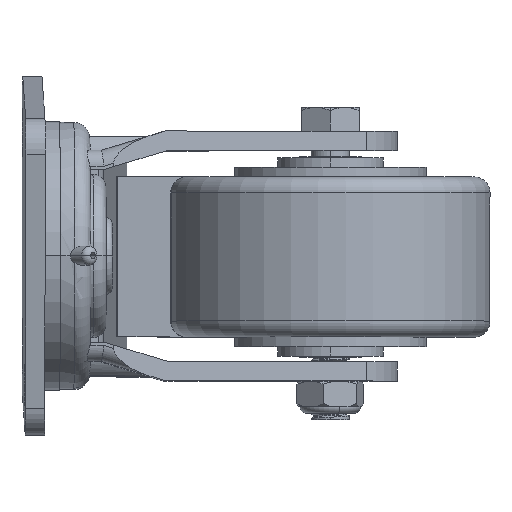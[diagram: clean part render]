
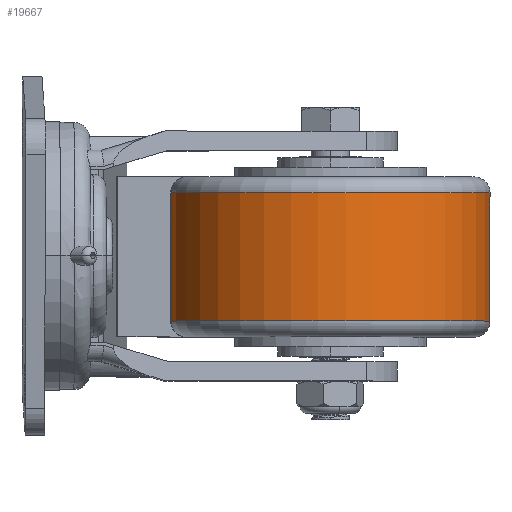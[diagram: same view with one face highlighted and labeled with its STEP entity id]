
A CAD part, left-side view. The second image highlights one B-rep face of the part: STEP entity #19667.
In plain terms, the highlighted cylindrical face has radius 50 mm (diameter 100 mm), a partial arc.
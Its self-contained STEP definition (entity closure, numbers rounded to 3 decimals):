
#35 = EDGE_CURVE ( 'NONE', #16666, #19165, #8678, .T. ) ;
#1086 = CARTESIAN_POINT ( 'NONE',  ( 0., 20., -50. ) ) ;
#1677 = DIRECTION ( 'NONE',  ( 0., 0., -1. ) ) ;
#5470 = VECTOR ( 'NONE', #17193, 1000. ) ;
#6436 = ORIENTED_EDGE ( 'NONE', *, *, #35, .F. ) ;
#8453 = DIRECTION ( 'NONE',  ( 0., -1., 0. ) ) ;
#8678 = LINE ( 'NONE', #37540, #5470 ) ;
#9309 = ORIENTED_EDGE ( 'NONE', *, *, #34332, .T. ) ;
#9609 = EDGE_LOOP ( 'NONE', ( #6436, #9309, #13526, #34547 ) ) ;
#10825 = DIRECTION ( 'NONE',  ( 0., 0., -1. ) ) ;
#11302 = CARTESIAN_POINT ( 'NONE',  ( 0., -20., 0. ) ) ;
#11398 = CARTESIAN_POINT ( 'NONE',  ( 0., 0., 0. ) ) ;
#11984 = CIRCLE ( 'NONE', #18798, 50. ) ;
#12357 = VERTEX_POINT ( 'NONE', #1086 ) ;
#13526 = ORIENTED_EDGE ( 'NONE', *, *, #24389, .T. ) ;
#14114 = CYLINDRICAL_SURFACE ( 'NONE', #23018, 50. ) ;
#16363 = DIRECTION ( 'NONE',  ( 0., 1., 0. ) ) ;
#16666 = VERTEX_POINT ( 'NONE', #23815 ) ;
#17193 = DIRECTION ( 'NONE',  ( 0., -1., 0. ) ) ;
#18798 = AXIS2_PLACEMENT_3D ( 'NONE', #27042, #8453, #29553 ) ;
#19165 = VERTEX_POINT ( 'NONE', #33015 ) ;
#19667 = ADVANCED_FACE ( 'NONE', ( #19751 ), #14114, .T. ) ;
#19751 = FACE_OUTER_BOUND ( 'NONE', #9609, .T. ) ;
#21982 = VECTOR ( 'NONE', #25489, 1000. ) ;
#23018 = AXIS2_PLACEMENT_3D ( 'NONE', #11398, #25567, #10825 ) ;
#23815 = CARTESIAN_POINT ( 'NONE',  ( 0., 20., 50. ) ) ;
#24389 = EDGE_CURVE ( 'NONE', #12357, #26167, #24718, .T. ) ;
#24718 = LINE ( 'NONE', #36710, #21982 ) ;
#24977 = CARTESIAN_POINT ( 'NONE',  ( 0., -20., -50. ) ) ;
#25489 = DIRECTION ( 'NONE',  ( 0., -1., 0. ) ) ;
#25567 = DIRECTION ( 'NONE',  ( 0., -1., 0. ) ) ;
#26167 = VERTEX_POINT ( 'NONE', #24977 ) ;
#27042 = CARTESIAN_POINT ( 'NONE',  ( 0., 20., 0. ) ) ;
#29553 = DIRECTION ( 'NONE',  ( 0., 0., 1. ) ) ;
#30275 = AXIS2_PLACEMENT_3D ( 'NONE', #11302, #16363, #1677 ) ;
#33015 = CARTESIAN_POINT ( 'NONE',  ( 0., -20., 50. ) ) ;
#34332 = EDGE_CURVE ( 'NONE', #16666, #12357, #11984, .T. ) ;
#34547 = ORIENTED_EDGE ( 'NONE', *, *, #35636, .T. ) ;
#35636 = EDGE_CURVE ( 'NONE', #26167, #19165, #36452, .T. ) ;
#36452 = CIRCLE ( 'NONE', #30275, 50. ) ;
#36710 = CARTESIAN_POINT ( 'NONE',  ( 0., 0., -50. ) ) ;
#37540 = CARTESIAN_POINT ( 'NONE',  ( 0., 0., 50. ) ) ;
